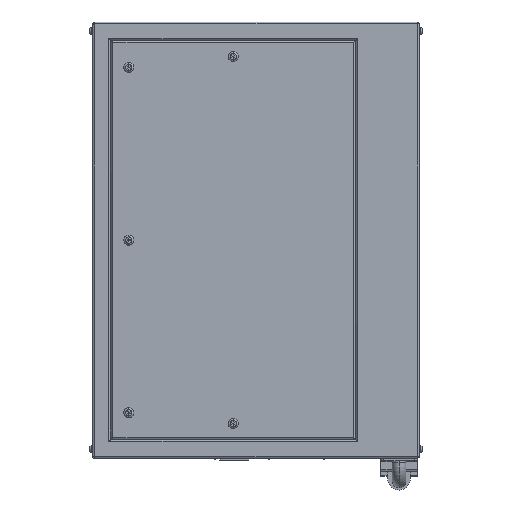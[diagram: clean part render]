
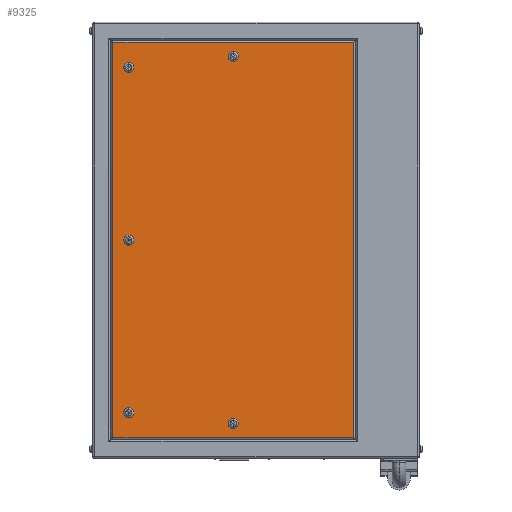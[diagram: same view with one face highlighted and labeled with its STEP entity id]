
A CAD part, left-side view. The second image highlights one B-rep face of the part: STEP entity #9325.
In plain terms, the highlighted planar face has unit normal (-1, 0, 0).
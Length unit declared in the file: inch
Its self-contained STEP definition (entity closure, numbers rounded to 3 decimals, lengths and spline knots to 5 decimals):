
#53 = DIRECTION ( 'NONE',  ( 0., 0., -1. ) ) ;
#248 = CARTESIAN_POINT ( 'NONE',  ( -11., 15.74, -21.74 ) ) ;
#314 = DIRECTION ( 'NONE',  ( 0., 0., -1. ) ) ;
#702 = AXIS2_PLACEMENT_3D ( 'NONE', #3957, #16138, #18057 ) ;
#711 = DIRECTION ( 'NONE',  ( 0., -1., 0. ) ) ;
#729 = AXIS2_PLACEMENT_3D ( 'NONE', #21325, #8778, #53 ) ;
#760 = CARTESIAN_POINT ( 'NONE',  ( -11., -10.74, 21.74 ) ) ;
#764 = VERTEX_POINT ( 'NONE', #10200 ) ;
#925 = ORIENTED_EDGE ( 'NONE', *, *, #9184, .T. ) ;
#929 = DIRECTION ( 'NONE',  ( 1., 0., 0. ) ) ;
#1099 = CARTESIAN_POINT ( 'NONE',  ( -11., 2.5, 20.19 ) ) ;
#1117 = CIRCLE ( 'NONE', #1141, 0.55 ) ;
#1141 = AXIS2_PLACEMENT_3D ( 'NONE', #19766, #18472, #5600 ) ;
#1237 = FACE_BOUND ( 'NONE', #4723, .T. ) ;
#1277 = CARTESIAN_POINT ( 'NONE',  ( -11., 14., 19.55 ) ) ;
#1339 = CARTESIAN_POINT ( 'NONE',  ( -11., 14., 19. ) ) ;
#1896 = EDGE_LOOP ( 'NONE', ( #9299, #925 ) ) ;
#2138 = CIRCLE ( 'NONE', #9851, 0.55 ) ;
#2237 = VERTEX_POINT ( 'NONE', #14157 ) ;
#2298 = DIRECTION ( 'NONE',  ( 0., 0., -1. ) ) ;
#2399 = ORIENTED_EDGE ( 'NONE', *, *, #9881, .T. ) ;
#2501 = ORIENTED_EDGE ( 'NONE', *, *, #19973, .T. ) ;
#3038 = VERTEX_POINT ( 'NONE', #7770 ) ;
#3117 = DIRECTION ( 'NONE',  ( 0., 0., -1. ) ) ;
#3256 = DIRECTION ( 'NONE',  ( 0., 0., -1. ) ) ;
#3820 = EDGE_CURVE ( 'NONE', #14797, #15951, #21303, .T. ) ;
#3957 = CARTESIAN_POINT ( 'NONE',  ( -11., 14., 0. ) ) ;
#4205 = CIRCLE ( 'NONE', #15615, 0.55 ) ;
#4326 = VERTEX_POINT ( 'NONE', #13288 ) ;
#4362 = VECTOR ( 'NONE', #711, 39.37008 ) ;
#4525 = EDGE_LOOP ( 'NONE', ( #2399, #20018, #9233, #2501 ) ) ;
#4565 = EDGE_CURVE ( 'NONE', #4668, #764, #21719, .T. ) ;
#4637 = FACE_BOUND ( 'NONE', #10967, .T. ) ;
#4668 = VERTEX_POINT ( 'NONE', #18067 ) ;
#4723 = EDGE_LOOP ( 'NONE', ( #10562, #11256 ) ) ;
#4793 = DIRECTION ( 'NONE',  ( 0., 1., 0. ) ) ;
#4861 = FACE_OUTER_BOUND ( 'NONE', #4525, .T. ) ;
#5077 = CIRCLE ( 'NONE', #18971, 0.55 ) ;
#5460 = DIRECTION ( 'NONE',  ( 0., 0., 1. ) ) ;
#5583 = VERTEX_POINT ( 'NONE', #8354 ) ;
#5600 = DIRECTION ( 'NONE',  ( 0., 0., -1. ) ) ;
#6079 = DIRECTION ( 'NONE',  ( 1., 0., 0. ) ) ;
#6095 = LINE ( 'NONE', #18223, #4362 ) ;
#6602 = FACE_BOUND ( 'NONE', #1896, .T. ) ;
#6854 = VECTOR ( 'NONE', #20972, 39.37008 ) ;
#6972 = DIRECTION ( 'NONE',  ( 1., 0., 0. ) ) ;
#7453 = VERTEX_POINT ( 'NONE', #1277 ) ;
#7474 = CARTESIAN_POINT ( 'NONE',  ( -11., 14., -0.55 ) ) ;
#7770 = CARTESIAN_POINT ( 'NONE',  ( -11., -10.74, -21.74 ) ) ;
#7923 = DIRECTION ( 'NONE',  ( 0., 0., -1. ) ) ;
#8354 = CARTESIAN_POINT ( 'NONE',  ( -11., 14., 18.45 ) ) ;
#8400 = EDGE_CURVE ( 'NONE', #15951, #14797, #15509, .T. ) ;
#8778 = DIRECTION ( 'NONE',  ( 1., 0., 0. ) ) ;
#9029 = CARTESIAN_POINT ( 'NONE',  ( -11., 2.5, -20.19 ) ) ;
#9184 = EDGE_CURVE ( 'NONE', #7453, #5583, #1117, .T. ) ;
#9203 = CARTESIAN_POINT ( 'NONE',  ( -11., -10.74, -24. ) ) ;
#9233 = ORIENTED_EDGE ( 'NONE', *, *, #15462, .T. ) ;
#9270 = DIRECTION ( 'NONE',  ( 1., 0., 0. ) ) ;
#9299 = ORIENTED_EDGE ( 'NONE', *, *, #15847, .T. ) ;
#9325 = ADVANCED_FACE ( 'NONE', ( #4637, #11633, #18588, #1237, #6602, #4861 ), #11860, .F. ) ;
#9467 = ORIENTED_EDGE ( 'NONE', *, *, #3820, .T. ) ;
#9851 = AXIS2_PLACEMENT_3D ( 'NONE', #13367, #13138, #16926 ) ;
#9881 = EDGE_CURVE ( 'NONE', #22242, #3038, #6095, .T. ) ;
#9913 = DIRECTION ( 'NONE',  ( 1., 0., 0. ) ) ;
#10078 = ORIENTED_EDGE ( 'NONE', *, *, #16468, .T. ) ;
#10200 = CARTESIAN_POINT ( 'NONE',  ( -11., 2.5, 20.74 ) ) ;
#10291 = DIRECTION ( 'NONE',  ( 1., 0., 0. ) ) ;
#10477 = LINE ( 'NONE', #17334, #17804 ) ;
#10562 = ORIENTED_EDGE ( 'NONE', *, *, #18085, .T. ) ;
#10631 = EDGE_LOOP ( 'NONE', ( #22479, #10078 ) ) ;
#10730 = AXIS2_PLACEMENT_3D ( 'NONE', #15660, #10291, #19174 ) ;
#10967 = EDGE_LOOP ( 'NONE', ( #16096, #9467 ) ) ;
#11093 = VERTEX_POINT ( 'NONE', #7474 ) ;
#11256 = ORIENTED_EDGE ( 'NONE', *, *, #17013, .T. ) ;
#11633 = FACE_BOUND ( 'NONE', #16378, .T. ) ;
#11788 = CARTESIAN_POINT ( 'NONE',  ( -11., 18., 21.74 ) ) ;
#11860 = PLANE ( 'NONE',  #729 ) ;
#11970 = CIRCLE ( 'NONE', #22190, 0.55 ) ;
#11977 = DIRECTION ( 'NONE',  ( 1., 0., 0. ) ) ;
#12677 = CARTESIAN_POINT ( 'NONE',  ( -11., 14., 0. ) ) ;
#12740 = VERTEX_POINT ( 'NONE', #18410 ) ;
#12951 = VERTEX_POINT ( 'NONE', #13269 ) ;
#13095 = EDGE_CURVE ( 'NONE', #764, #4668, #4205, .T. ) ;
#13138 = DIRECTION ( 'NONE',  ( 1., 0., 0. ) ) ;
#13269 = CARTESIAN_POINT ( 'NONE',  ( -11., 14., -19.55 ) ) ;
#13288 = CARTESIAN_POINT ( 'NONE',  ( -11., 14., 0.55 ) ) ;
#13367 = CARTESIAN_POINT ( 'NONE',  ( -11., 14., -19. ) ) ;
#14058 = AXIS2_PLACEMENT_3D ( 'NONE', #1099, #9913, #16999 ) ;
#14132 = CARTESIAN_POINT ( 'NONE',  ( -11., 2.5, -20.74 ) ) ;
#14157 = CARTESIAN_POINT ( 'NONE',  ( -11., 15.74, 21.74 ) ) ;
#14499 = CARTESIAN_POINT ( 'NONE',  ( -11., 2.5, -19.64 ) ) ;
#14797 = VERTEX_POINT ( 'NONE', #14499 ) ;
#14865 = VERTEX_POINT ( 'NONE', #760 ) ;
#14869 = LINE ( 'NONE', #11788, #19931 ) ;
#15462 = EDGE_CURVE ( 'NONE', #14865, #2237, #14869, .T. ) ;
#15478 = ORIENTED_EDGE ( 'NONE', *, *, #4565, .T. ) ;
#15509 = CIRCLE ( 'NONE', #19832, 0.55 ) ;
#15615 = AXIS2_PLACEMENT_3D ( 'NONE', #16632, #929, #7923 ) ;
#15660 = CARTESIAN_POINT ( 'NONE',  ( -11., 2.5, -20.19 ) ) ;
#15847 = EDGE_CURVE ( 'NONE', #5583, #7453, #20328, .T. ) ;
#15951 = VERTEX_POINT ( 'NONE', #14132 ) ;
#16096 = ORIENTED_EDGE ( 'NONE', *, *, #8400, .T. ) ;
#16138 = DIRECTION ( 'NONE',  ( 1., 0., 0. ) ) ;
#16378 = EDGE_LOOP ( 'NONE', ( #15478, #19999 ) ) ;
#16441 = EDGE_CURVE ( 'NONE', #3038, #14865, #21083, .T. ) ;
#16451 = CIRCLE ( 'NONE', #702, 0.55 ) ;
#16468 = EDGE_CURVE ( 'NONE', #12740, #12951, #11970, .T. ) ;
#16632 = CARTESIAN_POINT ( 'NONE',  ( -11., 2.5, 20.19 ) ) ;
#16634 = CARTESIAN_POINT ( 'NONE',  ( -11., 14., -19. ) ) ;
#16926 = DIRECTION ( 'NONE',  ( 0., 0., -1. ) ) ;
#16999 = DIRECTION ( 'NONE',  ( 0., 0., -1. ) ) ;
#17013 = EDGE_CURVE ( 'NONE', #4326, #11093, #5077, .T. ) ;
#17334 = CARTESIAN_POINT ( 'NONE',  ( -11., 15.74, -24. ) ) ;
#17804 = VECTOR ( 'NONE', #3117, 39.37008 ) ;
#18057 = DIRECTION ( 'NONE',  ( 0., 0., -1. ) ) ;
#18067 = CARTESIAN_POINT ( 'NONE',  ( -11., 2.5, 19.64 ) ) ;
#18085 = EDGE_CURVE ( 'NONE', #11093, #4326, #16451, .T. ) ;
#18223 = CARTESIAN_POINT ( 'NONE',  ( -11., 18., -21.74 ) ) ;
#18410 = CARTESIAN_POINT ( 'NONE',  ( -11., 14., -18.45 ) ) ;
#18472 = DIRECTION ( 'NONE',  ( 1., 0., 0. ) ) ;
#18588 = FACE_BOUND ( 'NONE', #10631, .T. ) ;
#18971 = AXIS2_PLACEMENT_3D ( 'NONE', #12677, #9270, #314 ) ;
#19174 = DIRECTION ( 'NONE',  ( 0., 0., 1. ) ) ;
#19228 = AXIS2_PLACEMENT_3D ( 'NONE', #1339, #11977, #3256 ) ;
#19766 = CARTESIAN_POINT ( 'NONE',  ( -11., 14., 19. ) ) ;
#19832 = AXIS2_PLACEMENT_3D ( 'NONE', #9029, #6972, #5460 ) ;
#19931 = VECTOR ( 'NONE', #4793, 39.37008 ) ;
#19973 = EDGE_CURVE ( 'NONE', #2237, #22242, #10477, .T. ) ;
#19999 = ORIENTED_EDGE ( 'NONE', *, *, #13095, .T. ) ;
#20018 = ORIENTED_EDGE ( 'NONE', *, *, #16441, .T. ) ;
#20328 = CIRCLE ( 'NONE', #19228, 0.55 ) ;
#20755 = EDGE_CURVE ( 'NONE', #12951, #12740, #2138, .T. ) ;
#20972 = DIRECTION ( 'NONE',  ( 0., 0., 1. ) ) ;
#21083 = LINE ( 'NONE', #9203, #6854 ) ;
#21303 = CIRCLE ( 'NONE', #10730, 0.55 ) ;
#21325 = CARTESIAN_POINT ( 'NONE',  ( -11., 18., -24. ) ) ;
#21719 = CIRCLE ( 'NONE', #14058, 0.55 ) ;
#22190 = AXIS2_PLACEMENT_3D ( 'NONE', #16634, #6079, #2298 ) ;
#22242 = VERTEX_POINT ( 'NONE', #248 ) ;
#22479 = ORIENTED_EDGE ( 'NONE', *, *, #20755, .T. ) ;
